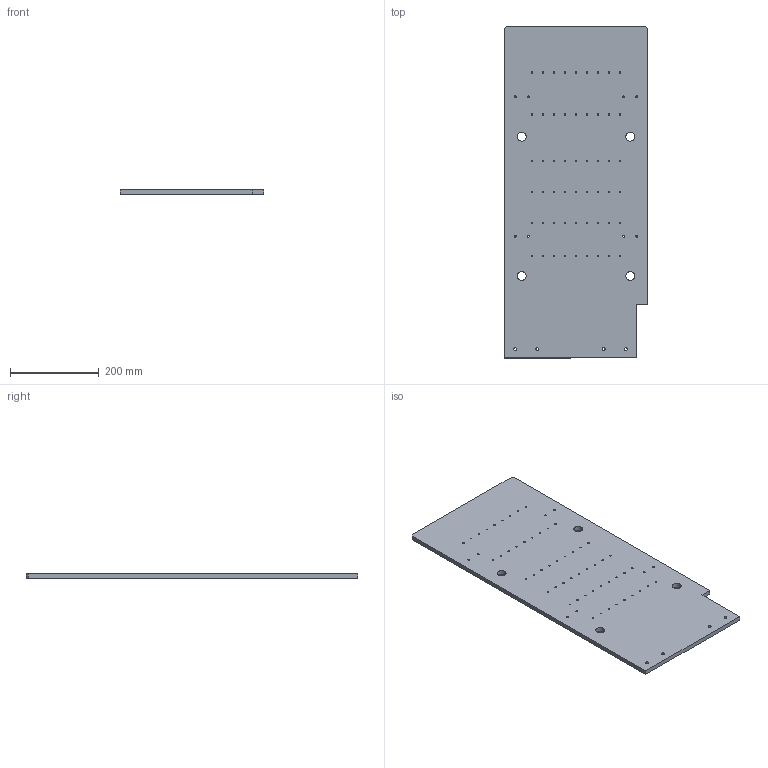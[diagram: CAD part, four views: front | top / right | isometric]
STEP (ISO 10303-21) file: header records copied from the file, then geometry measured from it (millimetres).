
FILE_DESCRIPTION(('CATIA V5 STEP Exchange'),'2;1');
FILE_NAME('D:\姚明阳\1、工装图纸\AG105\AG105.03_V1.stp','2024-04-30T05:12:25+00:00',('none'),('none'),'CATIA Version 5 Release 21 GA (IN-10)','CATIA V5 STEP AP214','none');
FILE_SCHEMA(('AUTOMOTIVE_DESIGN { 1 0 10303 214 1 1 1 1 }'));
Length unit declared in the file: millimetre
Products named in the file (1): Part4
Bounding box: 325 x 750 x 10 mm (x, y, z)
Volume: 2387905 mm3; surface area: 508836.8 mm2
Topology: 1 solids, 1 shells, 150 faces, 444 edges, 296 vertices
Faces by surface type: cylinder 140, plane 10
Entity records: 4860 total; most frequent: ORIENTED_EDGE 888, CARTESIAN_POINT 821, DIRECTION 604, EDGE_CURVE 444, AXIS2_PLACEMENT_3D 361, VERTEX_POINT 296, EDGE_LOOP 290, CIRCLE 280
